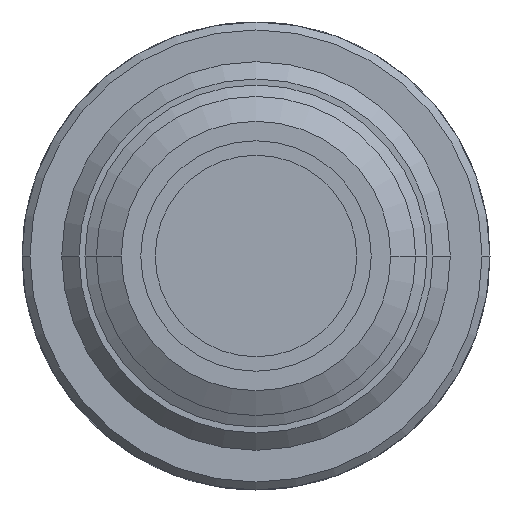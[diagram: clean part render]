
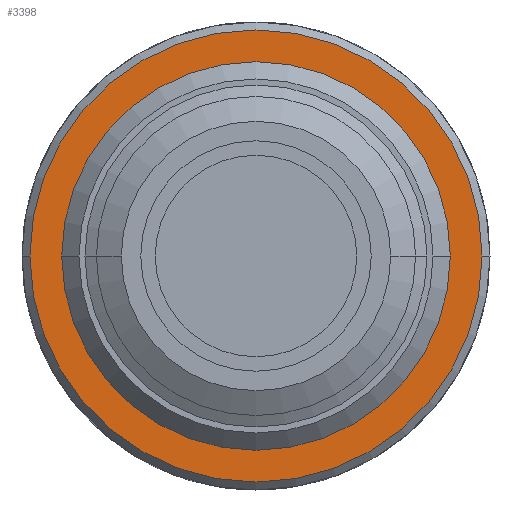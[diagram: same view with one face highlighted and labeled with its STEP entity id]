
A CAD part, left-side view. The second image highlights one B-rep face of the part: STEP entity #3398.
In plain terms, the highlighted planar face has unit normal (-1, 0, 0).
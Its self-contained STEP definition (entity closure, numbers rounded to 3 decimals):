
#162=CARTESIAN_POINT('',(-73.,0.,0.));
#163=DIRECTION('',(1.,0.,0.));
#164=DIRECTION('',(0.,1.,0.));
#165=AXIS2_PLACEMENT_3D('',#162,#163,#164);
#184=CARTESIAN_POINT('',(-73.,0.,0.));
#185=DIRECTION('',(-1.,0.,0.));
#186=DIRECTION('',(0.,1.,0.));
#187=AXIS2_PLACEMENT_3D('',#184,#185,#186);
#192=CARTESIAN_POINT('',(-73.,0.,0.));
#193=DIRECTION('',(1.,0.,0.));
#194=DIRECTION('',(0.,1.,0.));
#195=AXIS2_PLACEMENT_3D('',#192,#193,#194);
#200=CARTESIAN_POINT('',(-73.,0.,0.));
#201=DIRECTION('',(-1.,0.,0.));
#202=DIRECTION('',(0.,1.,0.));
#203=AXIS2_PLACEMENT_3D('',#200,#201,#202);
#3072=CARTESIAN_POINT('',(-73.,12.,0.));
#3074=VERTEX_POINT('',#3072);
#3082=CARTESIAN_POINT('',(-73.,-12.,0.));
#3084=VERTEX_POINT('',#3082);
#3100=CARTESIAN_POINT('',(-73.,15.7,0.));
#3101=VERTEX_POINT('',#3100);
#3106=CARTESIAN_POINT('',(-73.,-15.7,0.));
#3107=VERTEX_POINT('',#3106);
#3383=CARTESIAN_POINT('',(-73.,0.,0.));
#3384=DIRECTION('',(1.,0.,0.));
#3385=DIRECTION('',(0.,-1.,0.));
#3386=AXIS2_PLACEMENT_3D('',#3383,#3384,#3385);
#3387=PLANE('',#3386);
#3389=ORIENTED_EDGE('',*,*,#3388,.T.);
#3391=ORIENTED_EDGE('',*,*,#3390,.F.);
#3392=EDGE_LOOP('',(#3389,#3391));
#3393=FACE_OUTER_BOUND('',#3392,.F.);
#3394=ORIENTED_EDGE('',*,*,#3378,.T.);
#3395=ORIENTED_EDGE('',*,*,#3362,.F.);
#3396=EDGE_LOOP('',(#3394,#3395));
#3397=FACE_BOUND('',#3396,.F.);
#166=CIRCLE('',#165,12.);
#188=CIRCLE('',#187,12.);
#196=CIRCLE('',#195,15.7);
#204=CIRCLE('',#203,15.7);
#3362=EDGE_CURVE('',#3074,#3084,#166,.T.);
#3378=EDGE_CURVE('',#3074,#3084,#188,.T.);
#3388=EDGE_CURVE('',#3101,#3107,#196,.T.);
#3390=EDGE_CURVE('',#3101,#3107,#204,.T.);
#3398=ADVANCED_FACE('',(#3393,#3397),#3387,.F.);
